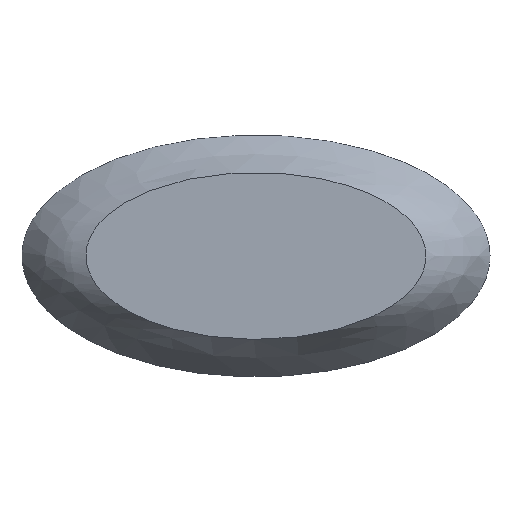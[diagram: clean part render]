
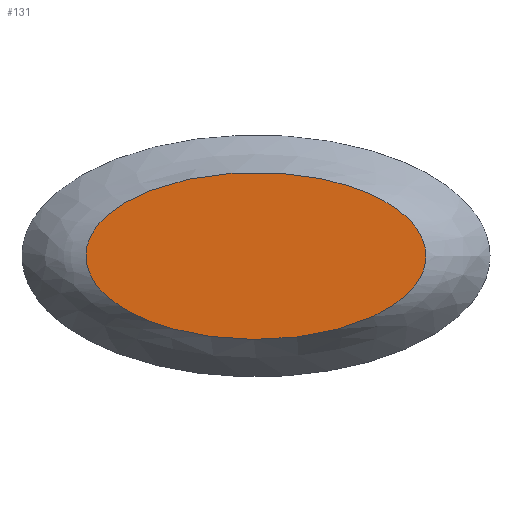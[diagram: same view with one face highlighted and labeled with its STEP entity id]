
A CAD part, top view. The second image highlights one B-rep face of the part: STEP entity #131.
In plain terms, the highlighted planar face has unit normal (0, 0, 1).
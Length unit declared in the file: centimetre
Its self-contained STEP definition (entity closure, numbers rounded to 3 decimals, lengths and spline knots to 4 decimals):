
#114=VERTEX_POINT('',#346);
#116=EDGE_CURVE('',#114,#114,#177,.T.);
#119=ORIENTED_EDGE('',*,*,#116,.T.);
#125=EDGE_LOOP('',(#119));
#128=FACE_BOUND('',#125,.T.);
#131=ADVANCED_FACE('',(#128),#271,.T.);
#177=ELLIPSE('',#252,6.0556,2.9762);
#251=AXIS2_PLACEMENT_3D('',#344,#717,$);
#252=AXIS2_PLACEMENT_3D('',#345,#718,#719);
#271=PLANE('',#251);
#344=CARTESIAN_POINT('',(0.,0.,2.));
#345=CARTESIAN_POINT('',(0.,0.,2.));
#346=CARTESIAN_POINT('',(6.0556,0.,2.));
#717=DIRECTION('',(0.,0.,1.));
#718=DIRECTION('',(0.,0.,1.));
#719=DIRECTION('',(6.056,0.,0.));
